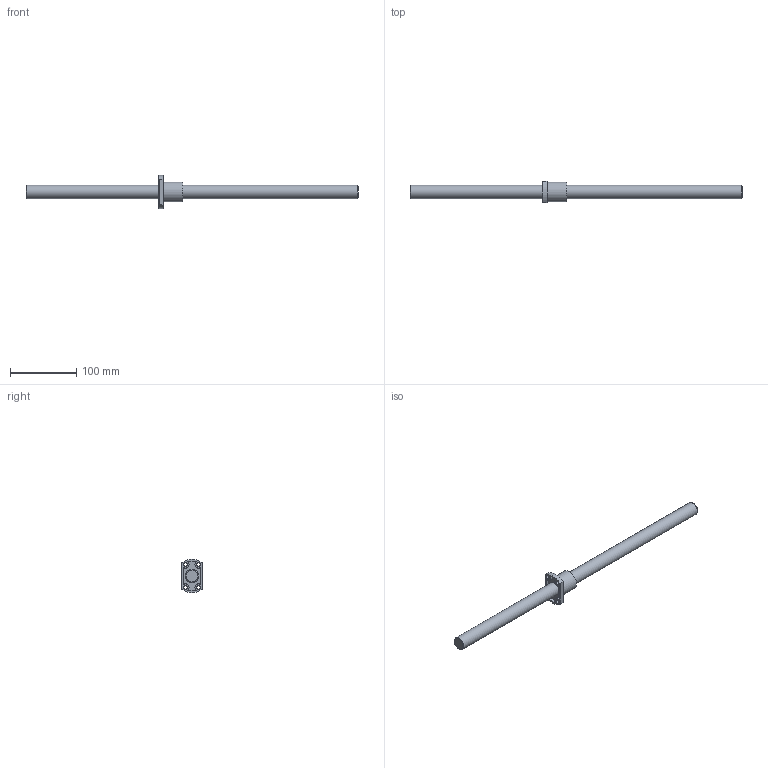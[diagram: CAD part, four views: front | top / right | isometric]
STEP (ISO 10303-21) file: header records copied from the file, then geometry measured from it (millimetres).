
FILE_DESCRIPTION((''),'2;1');
FILE_NAME('D:\製品 (図面)\カタログ用3D\ネジ関連\STEP形式\MSK\MSK20.stp','2010-06-02T14:38:34',('Tsuchiya'),(''),'Autodesk Inventor 10','Autodesk Inventor 10','');
FILE_SCHEMA(('AUTOMOTIVE_DESIGN { 1 0 10303 214 1 1 1 1 }'));
Length unit declared in the file: millimetre
Products named in the file (3): MSK20; MSK201; MSK202
Assembly tree (2 placements, depth 2):
  MSK20
    MSK201
    MSK202
Bounding box: 500 x 32 x 50 mm (x, y, z)
Volume: 173616.5 mm3; surface area: 40915 mm2
Topology: 2 solids, 2 shells, 31 faces, 78 edges, 53 vertices
Faces by surface type: cylinder 15, plane 14, cone 2
Full cylindrical faces by diameter (mm): 5.5 x4, 20 x2, 30 x1
Entity records: 962 total; most frequent: DIRECTION 176, CARTESIAN_POINT 148, ORIENTED_EDGE 128, AXIS2_PLACEMENT_3D 76, EDGE_CURVE 64, EDGE_LOOP 52, VERTEX_POINT 48, CIRCLE 32
